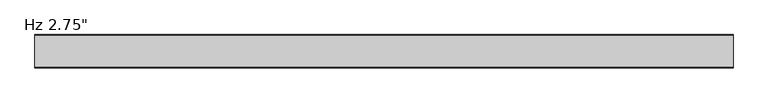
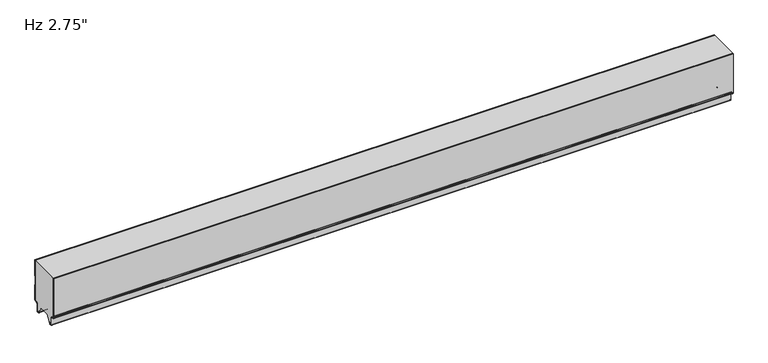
"""IFC4 building model written with IfcOpenShell, lengths in millimetres: plate geometry."""

import ifcopenshell
import ifcopenshell.guid

model = None  # the IFC model being written
_history = None  # IfcOwnerHistory: only IFC2X3 demands one
_inside = {}  # id of a spatial element -> (the spatial element, [elements in it])
_under = {}  # id of a project, library or spatial element -> (it, [spatial elements below it])
_declared = {}  # id of a project -> (the project, [libraries it declares])
_typed = {}  # id of a type object -> (the type object, [elements of that type])
_made_of = {}  # id of a material, layer set ... -> (it, [elements and type objects made of it])


def new_model(schema):
    """Start an empty IFC model of exactly this schema.

    Asked for "IFC4X3", IfcOpenShell would pick the latest addendum, in which some entities
    have other attributes; the version numbers below select the first issue.
    IFC2X3 requires an IfcOwnerHistory on every rooted entity: one is made here for all.
    """
    global model, _history
    if schema == "IFC4X3":
        model = ifcopenshell.file(schema_version=(4, 3, 0, 0))
    else:
        model = ifcopenshell.file(schema=schema)
    _inside.clear()
    _under.clear()
    _declared.clear()
    _typed.clear()
    _made_of.clear()
    _history = None
    if model.schema == "IFC2X3":
        org = make("IfcOrganization", Name="unknown")
        user = make(
            "IfcPersonAndOrganization",
            ThePerson=make("IfcPerson", FamilyName="unknown"),
            TheOrganization=org,
        )
        app = make(
            "IfcApplication",
            ApplicationDeveloper=org,
            Version="unknown",
            ApplicationFullName="unknown",
            ApplicationIdentifier="unknown",
        )
        _history = make(
            "IfcOwnerHistory",
            OwningUser=user,
            OwningApplication=app,
            ChangeAction="ADDED",
            CreationDate=0,
        )
    return model


def make(cls, **values):
    """One entity of the class cls with the attributes given. An attribute that is None is left unset."""
    return model.create_entity(
        cls, **{name: value for name, value in values.items() if value is not None}
    )


def rooted(cls, **values):
    """An entity with a GlobalId (a new one), such as an element, a storey or a relation."""
    return make(cls, GlobalId=ifcopenshell.guid.new(), OwnerHistory=_history, **values)


def si_unit(unit_type, name, prefix=None):
    """IfcSIUnit, for example si_unit("LENGTHUNIT", "METRE", prefix="MILLI")."""
    return make("IfcSIUnit", UnitType=unit_type, Prefix=prefix, Name=name)


def assignment(units):
    """IfcUnitAssignment: the units of a project."""
    return None if units is None else make("IfcUnitAssignment", Units=units)


def point(xyz):
    """IfcCartesianPoint."""
    return None if xyz is None else make("IfcCartesianPoint", Coordinates=xyz)


def direction(xyz):
    """IfcDirection."""
    return None if xyz is None else make("IfcDirection", DirectionRatios=xyz)


def frame(location, z_axis=None, x_axis=None):
    """IfcAxis2Placement3D, a coordinate frame: its origin and axes. An axis left out is left unset."""
    return make(
        "IfcAxis2Placement3D",
        Location=point(location),
        Axis=direction(z_axis),
        RefDirection=direction(x_axis),
    )


def origin():
    """The frame at (0, 0, 0) with its axes left unset."""
    return frame((0.0, 0.0, 0.0))


def place(relative_to, where):
    """IfcLocalPlacement: puts the frame where relative to a parent placement (None: the world)."""
    return make(
        "IfcLocalPlacement", PlacementRelTo=relative_to, RelativePlacement=where
    )


def context(
    kind, dimensions, precision=None, world=None, true_north=None, identifier=None
):
    """IfcGeometricRepresentationContext, for example the 3D "Model" context."""
    return make(
        "IfcGeometricRepresentationContext",
        ContextIdentifier=identifier,
        ContextType=kind,
        CoordinateSpaceDimension=dimensions,
        Precision=precision,
        WorldCoordinateSystem=world,
        TrueNorth=true_north,
    )


def project(units=None, contexts=None):
    """IfcProject with its units and contexts."""
    return rooted(
        "IfcProject",
        Name="project",
        RepresentationContexts=contexts,
        UnitsInContext=assignment(units),
    )


def spatial(cls, under=None, at=None, **own):
    """A site, building, storey or space (cls), placed at a placement, below another one or the project."""
    s = rooted(cls, ObjectPlacement=at, **own)
    if under is not None:
        _under.setdefault(under.id(), (under, []))[1].append(s)
    return s


def polyline(points):
    """IfcPolyline through the points."""
    return make("IfcPolyline", Points=[point(p) for p in points])


def circle_curve(where, radius):
    """IfcCircle in the frame where."""
    return make("IfcCircle", Position=where, Radius=radius)


def shape(context_of_items, identifier, shape_type, items):
    """IfcShapeRepresentation: the items that make up one representation, for example the "Body"."""
    return make(
        "IfcShapeRepresentation",
        ContextOfItems=context_of_items,
        RepresentationIdentifier=identifier,
        RepresentationType=shape_type,
        Items=items,
    )


def source(mapping_origin, context_of_items, identifier, shape_type, items):
    """IfcRepresentationMap: a shape defined once, which mapped items show again and again."""
    return make(
        "IfcRepresentationMap",
        MappingOrigin=mapping_origin,
        MappedRepresentation=shape(context_of_items, identifier, shape_type, items),
    )


def transform(
    local_origin,
    x_axis=None,
    y_axis=None,
    z_axis=None,
    scale=None,
    scale2=None,
    scale3=None,
    uniform=True,
):
    """IfcCartesianTransformationOperator3D, or its non-uniform kind. x_axis, y_axis, z_axis: its Axis1, 2, 3."""
    if uniform:
        return make(
            "IfcCartesianTransformationOperator3D",
            Axis1=direction(x_axis),
            Axis2=direction(y_axis),
            LocalOrigin=point(local_origin),
            Scale=scale,
            Axis3=direction(z_axis),
        )
    return make(
        "IfcCartesianTransformationOperator3DnonUniform",
        Axis1=direction(x_axis),
        Axis2=direction(y_axis),
        LocalOrigin=point(local_origin),
        Scale=scale,
        Axis3=direction(z_axis),
        Scale2=scale2,
        Scale3=scale3,
    )


def mapped(mapping_source, mapping_target):
    """IfcMappedItem: shows the shape of a source again, moved by a transform."""
    return make(
        "IfcMappedItem", MappingSource=mapping_source, MappingTarget=mapping_target
    )


def made_of(thing, what):
    """Note that an element or type object is made of a material, layer set ...; save() writes the relation."""
    if what is not None:
        _made_of.setdefault(what.id(), (what, []))[1].append(thing)
    return thing


def element(
    cls,
    number,
    at=None,
    inside=None,
    cuts=None,
    type_object=None,
    material=None,
    context=None,
    identifier="Body",
    shape_type=None,
    held_by="IfcProductDefinitionShape",
    body=None,
    shapes=None,
    **own,
):
    """One element of the class cls, such as IfcWall. Its Tag is "e" and its number.

    at: its placement. inside: the storey or other place that contains it. cuts: it is an
    opening in that element (IfcRelVoidsElement). A single representation is given by context,
    identifier, shape_type and body (its items); several are given by shapes. held_by: the class
    of the entity that holds the representations. save() writes the other relations.
    """
    e = rooted(cls, Tag="e%d" % number, ObjectPlacement=at, **own)
    if body is not None:
        shapes = [shape(context, identifier, shape_type, body)]
    if shapes is not None:
        e.Representation = make(held_by, Representations=shapes)
    if inside is not None:
        _inside.setdefault(inside.id(), (inside, []))[1].append(e)
    if cuts is not None:
        rooted(
            "IfcRelVoidsElement", RelatingBuildingElement=cuts, RelatedOpeningElement=e
        )
    if type_object is not None:
        _typed.setdefault(type_object.id(), (type_object, []))[1].append(e)
    return made_of(e, material)


def aggregate(whole, parts):
    """IfcRelAggregates: a whole, such as a stair, and the parts it consists of."""
    return rooted("IfcRelAggregates", RelatingObject=whole, RelatedObjects=parts)


def save(model, path):
    """Write the relations noted so far, then the file.

    IfcRelAggregates (storeys below a building ...), IfcRelContainedInSpatialStructure (elements
    in a storey), IfcRelDefinesByType, IfcRelAssociatesMaterial and IfcRelDeclares: one each for
    every whole, place, type object, material and project.
    """
    for whole, parts in _under.values():
        aggregate(whole, parts)
    for where, things in _inside.values():
        rooted(
            "IfcRelContainedInSpatialStructure",
            RelatedElements=things,
            RelatingStructure=where,
        )
    for kind, things in _typed.values():
        rooted("IfcRelDefinesByType", RelatedObjects=things, RelatingType=kind)
    for what, things in _made_of.values():
        rooted("IfcRelAssociatesMaterial", RelatedObjects=things, RelatingMaterial=what)
    for by, libraries in _declared.values():
        rooted("IfcRelDeclares", RelatingContext=by, RelatedDefinitions=libraries)
    model.write(path)


def plane_surface(at):
    """IfcPlane: the flat surface through the origin of the frame at, square to its z axis."""
    return make("IfcPlane", Position=at)


def cylinder_surface(at, radius):
    """IfcCylindricalSurface: all points at the distance radius from the z axis of the frame at."""
    return make("IfcCylindricalSurface", Position=at, Radius=radius)


def revolved_surface(curve, axis_point, axis_direction):
    """IfcSurfaceOfRevolution: the curve turned about the line through axis_point along axis_direction."""
    return make(
        "IfcSurfaceOfRevolution",
        SweptCurve=make("IfcArbitraryOpenProfileDef", ProfileType="CURVE", Curve=curve),
        AxisPosition=make("IfcAxis1Placement", Location=point(axis_point), Axis=direction(axis_direction)),
    )


def advanced_brep(points, edges, surfaces, faces):
    """IfcAdvancedBrep: a solid bounded by faces that lie on surfaces and meet in shared edges.

    An edge is (start, end): straight between two places in points (the first is 0);
    or (start, end, curve); or (start, end, curve, False) where it runs against its curve.
    A face is (place in surfaces, loops), or (place, loops, False) where it looks against
    its surface's normal. A loop lists edges by number (the first is 1), with a minus sign
    where the edge is run from its end to its start. The first loop is the outer one.
    """
    corners = [point(p) for p in points]
    vertices = [make("IfcVertexPoint", VertexGeometry=c) for c in corners]
    made = []
    for start, end, *more in edges:
        made.append(
            make(
                "IfcEdgeCurve",
                EdgeStart=vertices[start],
                EdgeEnd=vertices[end],
                EdgeGeometry=more[0] if more else make("IfcPolyline", Points=[corners[start], corners[end]]),
                SameSense=more[1] if len(more) > 1 else True,
            )
        )
    hull = []
    for where, loops, *sense in faces:
        bounds = []
        for j, loop in enumerate(loops):
            ring = [make("IfcOrientedEdge", EdgeElement=made[abs(k) - 1], Orientation=k > 0) for k in loop]
            bounds.append(
                make(
                    "IfcFaceOuterBound" if j == 0 else "IfcFaceBound",
                    Bound=make("IfcEdgeLoop", EdgeList=ring),
                    Orientation=True,
                )
            )
        hull.append(make("IfcAdvancedFace", Bounds=bounds, FaceSurface=surfaces[where], SameSense=sense[0] if sense else True))
    return make("IfcAdvancedBrep", Outer=make("IfcClosedShell", CfsFaces=hull))


def plate_8344565c(model_context):
    return source(origin(), model_context, "Body", "AdvancedBrep", [
        advanced_brep(
        [(-730.0, -1.0, 59.9218553), (-730.0, -1.0, 94.95), (-730.0, 0.0, 94.95), (-730.0, 0.0, 59.479416), (-730.0, -1.1911595, 58.4068912), (-730.0, -1.1911595, 39.5087751), (-730.0, 0.0, 38.4362503), (-730.0, 0.0, 5.8272193), (-730.0, -2.9772904, 2.8499526), (-730.0, -5.2691742, 2.8499526), (-730.0, -8.2464427, -0.1273159), (-730.0, -8.2464427, -15.7237419), (-730.0, -9.8343193, -17.3116185), (-730.0, -12.905868, -17.3116185), (-730.0, -14.4937445, -15.7237419), (-730.0, -14.4937445, -13.3687064), (-730.0, -13.4937445, -13.3687064), (-730.0, -13.4937445, -15.7237419), (-730.0, -12.905868, -16.3116185), (-730.0, -9.8343193, -16.3116185), (-730.0, -9.2464427, -15.7237419), (-730.0, -9.2464427, -0.1273159), (-730.0, -5.2691742, 3.8499526), (-730.0, -2.9772904, 3.8499526), (-730.0, -1.0000218, 5.82722), (-730.0, -1.0, 37.993811), (-730.0, -2.1911595, 39.0663358), (-730.0, -2.1911595, 58.8493305), (730.0, 0.0, 59.479416), (730.0, 0.0, 94.95), (730.0, -1.0, 94.95), (730.0, -1.0, 59.9218553), (730.0, -2.1911595, 58.8493305), (730.0, -2.1911595, 39.0663358), (730.0, -1.0, 37.993811), (730.0, -1.0, 5.82722), (730.0, -2.9772904, 3.8499526), (730.0, -5.2691742, 3.8499526), (730.0, -9.2464427, -0.1273159), (730.0, -9.2464427, -15.7237419), (730.0, -9.8343193, -16.3116185), (730.0, -12.905868, -16.3116185), (730.0, -13.4937445, -15.7237419), (730.0, -13.4937445, -13.3687064), (730.0, -14.4937445, -13.3687064), (730.0, -14.4937445, -15.7237419), (730.0, -12.905868, -17.3116185), (730.0, -9.8343193, -17.3116185), (730.0, -8.2464427, -15.7237419), (730.0, -8.2464427, -0.1273159), (730.0, -5.2691742, 2.8499526), (730.0, -2.9772904, 2.8499526), (730.0, -2.18e-05, 5.8272193), (730.0, 0.0, 38.4362503), (730.0, -1.1911595, 39.5087751), (730.0, -1.1911595, 58.4068912)],
        [
            (0, 1),
            (1, 2),
            (2, 3),
            (3, 4),
            (4, 5),
            (5, 6),
            (6, 7),
            (7, 8, circle_curve(frame((-730.0, -2.9772904, 5.8272211), z_axis=(-1.0, 0.0, 0.0), x_axis=(0.0, 1.0, 0.0)), 2.9772685)),
            (8, 9),
            (9, 10, circle_curve(frame((-730.0, -5.2691742, -0.1273159), z_axis=(1.0, 0.0, 0.0), x_axis=(0.0, 1.0, 0.0)), 2.9772685)),
            (10, 11),
            (11, 12, circle_curve(frame((-730.0, -9.8343193, -15.7237419), z_axis=(-1.0, 0.0, 0.0), x_axis=(0.0, 1.0, 0.0)), 1.5878765)),
            (12, 13),
            (13, 14, circle_curve(frame((-730.0, -12.905868, -15.7237419), z_axis=(-1.0, 0.0, 0.0), x_axis=(0.0, 1.0, 0.0)), 1.5878765)),
            (14, 15),
            (15, 16),
            (16, 17),
            (17, 18, circle_curve(frame((-730.0, -12.905868, -15.7237419), z_axis=(1.0, 0.0, 0.0), x_axis=(0.0, 1.0, 0.0)), 0.5878765)),
            (18, 19),
            (19, 20, circle_curve(frame((-730.0, -9.8343193, -15.7237419), z_axis=(1.0, 0.0, 0.0), x_axis=(0.0, 1.0, 0.0)), 0.5878765)),
            (20, 21),
            (21, 22, circle_curve(frame((-730.0, -5.2691742, -0.1273159), z_axis=(-1.0, 0.0, 0.0), x_axis=(0.0, 1.0, 0.0)), 3.9772685)),
            (22, 23),
            (23, 24, circle_curve(frame((-730.0, -2.9772904, 5.8272212), z_axis=(1.0, 0.0, 0.0), x_axis=(0.0, 1.0, 0.0)), 1.9772685)),
            (24, 25),
            (25, 26),
            (26, 27),
            (27, 0),
            (28, 29),
            (29, 30),
            (30, 31),
            (31, 32),
            (32, 33),
            (33, 34),
            (34, 35),
            (35, 36, circle_curve(frame((730.0, -2.9772904, 5.8272212), z_axis=(-1.0, 0.0, 0.0), x_axis=(0.0, 1.0, 0.0)), 1.9772685)),
            (36, 37),
            (37, 38, circle_curve(frame((730.0, -5.2691742, -0.1273159), z_axis=(1.0, 0.0, 0.0), x_axis=(0.0, 1.0, 0.0)), 3.9772685)),
            (38, 39),
            (39, 40, circle_curve(frame((730.0, -9.8343193, -15.7237419), z_axis=(-1.0, 0.0, 0.0), x_axis=(0.0, 1.0, 0.0)), 0.5878765)),
            (40, 41),
            (41, 42, circle_curve(frame((730.0, -12.905868, -15.7237419), z_axis=(-1.0, 0.0, 0.0), x_axis=(0.0, 1.0, 0.0)), 0.5878765)),
            (42, 43),
            (43, 44),
            (44, 45),
            (45, 46, circle_curve(frame((730.0, -12.905868, -15.7237419), z_axis=(1.0, 0.0, 0.0), x_axis=(0.0, 1.0, 0.0)), 1.5878765)),
            (46, 47),
            (47, 48, circle_curve(frame((730.0, -9.8343193, -15.7237419), z_axis=(1.0, 0.0, 0.0), x_axis=(0.0, 1.0, 0.0)), 1.5878765)),
            (48, 49),
            (49, 50, circle_curve(frame((730.0, -5.2691742, -0.1273159), z_axis=(-1.0, 0.0, 0.0), x_axis=(0.0, 1.0, 0.0)), 2.9772685)),
            (50, 51),
            (51, 52, circle_curve(frame((730.0, -2.9772904, 5.8272211), z_axis=(1.0, 0.0, 0.0), x_axis=(0.0, 1.0, 0.0)), 2.9772685)),
            (52, 53),
            (53, 54),
            (54, 55),
            (55, 28),
            (30, 1),
            (0, 31),
            (27, 32),
            (26, 33),
            (25, 34),
            (24, 35),
            (23, 36),
            (22, 37),
            (21, 38),
            (20, 39),
            (19, 40),
            (18, 41),
            (17, 42),
            (16, 43),
            (15, 44),
            (14, 45),
            (13, 46),
            (12, 47),
            (11, 48),
            (10, 49),
            (9, 50),
            (8, 51),
            (7, 52),
            (6, 53),
            (5, 54),
            (4, 55),
            (3, 28),
            (2, 29),
        ],
        [
            plane_surface(frame((-730.0, 0.0, 576.2625), z_axis=(-1.0, 0.0, 0.0), x_axis=(0.0, 1.0, 0.0))),
            plane_surface(frame((730.0, 0.0, 576.2625), z_axis=(1.0, 0.0, 0.0), x_axis=(0.0, 1.0, 0.0))),
            plane_surface(frame((-730.0, -1.0, 113.6164312), z_axis=(0.0, -1.0, 0.0), x_axis=(1.0, 0.0, 0.0))),
            plane_surface(frame((-730.0, -1.0, 59.9218553), z_axis=(0.0, -0.6691306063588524, 0.7431448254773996), x_axis=(1.0, 0.0, 0.0))),
            plane_surface(frame((-730.0, -2.1911595, 58.8493305), z_axis=(0.0, -1.0, 0.0), x_axis=(1.0, 0.0, 0.0))),
            plane_surface(frame((-730.0, -2.1911595, 39.0663358), z_axis=(0.0, -0.6691306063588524, -0.7431448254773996), x_axis=(1.0, 0.0, 0.0))),
            plane_surface(frame((-730.0, -1.0, 37.993811), z_axis=(0.0, -1.0, 0.0), x_axis=(1.0, 0.0, 0.0))),
            revolved_surface(polyline([(730.0, -1.0000218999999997, 5.8272212), (-730.0, -1.0000218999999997, 5.8272212)]), (-730.0, -2.9772904, 5.8272212), (1.0, 0.0, 0.0)),
            plane_surface(frame((-730.0, -2.9772904, 3.8499526), z_axis=(0.0, 0.0, 1.0), x_axis=(1.0, 0.0, 0.0))),
            cylinder_surface(frame((-730.0, -5.2691742, -0.1273159), z_axis=(-1.0, 0.0, 0.0), x_axis=(0.0, 1.0, 0.0)), 3.9772685),
            plane_surface(frame((-730.0, -9.2464427, -0.1273159), z_axis=(0.0, -1.0, 0.0), x_axis=(1.0, 0.0, 0.0))),
            revolved_surface(polyline([(730.0, -9.2464428, -15.7237419), (-730.0, -9.2464428, -15.7237419)]), (-730.0, -9.8343193, -15.7237419), (1.0, 0.0, 0.0)),
            plane_surface(frame((-730.0, -9.8343193, -16.3116185), z_axis=(0.0, 0.0, 1.0), x_axis=(1.0, 0.0, 0.0))),
            revolved_surface(polyline([(730.0, -12.3179915, -15.7237419), (-730.0, -12.3179915, -15.7237419)]), (-730.0, -12.905868, -15.7237419), (1.0, 0.0, 0.0)),
            plane_surface(frame((-730.0, -13.4937445, -15.7237419), z_axis=(0.0, 1.0, 0.0), x_axis=(1.0, 0.0, 0.0))),
            plane_surface(frame((-730.0, -13.4937445, -13.3687064), z_axis=(0.0, 0.0, 1.0), x_axis=(1.0, 0.0, 0.0))),
            plane_surface(frame((-730.0, -14.4937445, -13.3687064), z_axis=(0.0, -1.0, 0.0), x_axis=(1.0, 0.0, 0.0))),
            cylinder_surface(frame((-730.0, -12.905868, -15.7237419), z_axis=(-1.0, 0.0, 0.0), x_axis=(0.0, 1.0, 0.0)), 1.5878765),
            plane_surface(frame((-730.0, -12.905868, -17.3116185), z_axis=(0.0, 0.0, -1.0), x_axis=(1.0, 0.0, 0.0))),
            cylinder_surface(frame((-730.0, -9.8343193, -15.7237419), z_axis=(-1.0, 0.0, 0.0), x_axis=(0.0, 1.0, 0.0)), 1.5878765),
            plane_surface(frame((-730.0, -8.2464427, -15.7237419), z_axis=(0.0, 1.0, 0.0), x_axis=(1.0, 0.0, 0.0))),
            revolved_surface(polyline([(730.0, -2.2919057, -0.1273159), (-730.0, -2.2919057, -0.1273159)]), (-730.0, -5.2691742, -0.1273159), (1.0, 0.0, 0.0)),
            plane_surface(frame((-730.0, -5.2691742, 2.8499526), z_axis=(0.0, 0.0, -1.0), x_axis=(1.0, 0.0, 0.0))),
            cylinder_surface(frame((-730.0, -2.9772904, 5.8272211), z_axis=(-1.0, 0.0, 0.0), x_axis=(0.0, 1.0, 0.0)), 2.9772685),
            plane_surface(frame((-730.0, 0.0, 5.8272193), z_axis=(0.0, 1.0, 0.0), x_axis=(1.0, 0.0, 0.0))),
            plane_surface(frame((-730.0, 0.0, 38.4362503), z_axis=(0.0, 0.6691306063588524, 0.7431448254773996), x_axis=(1.0, 0.0, 0.0))),
            plane_surface(frame((-730.0, -1.1911595, 39.5087751), z_axis=(0.0, 1.0, 0.0), x_axis=(1.0, 0.0, 0.0))),
            plane_surface(frame((-730.0, -1.1911595, 58.4068912), z_axis=(0.0, 0.6691306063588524, -0.7431448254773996), x_axis=(1.0, 0.0, 0.0))),
            plane_surface(frame((-730.0, 0.0, 59.479416), z_axis=(0.0, 1.0, 0.0), x_axis=(1.0, 0.0, 0.0))),
            plane_surface(frame((730.0, 10.0, 94.95), z_axis=(0.0, 0.0, 1.0), x_axis=(-1.0, 0.0, 0.0))),
        ],
        [
            (0, [[1, 2, 3, 4, 5, 6, 7, 8, 9, 10, 11, 12, 13, 14, 15, 16, 17, 18, 19, 20, 21, 22, 23, 24, 25, 26, 27, 28]]),
            (1, [[29, 30, 31, 32, 33, 34, 35, 36, 37, 38, 39, 40, 41, 42, 43, 44, 45, 46, 47, 48, 49, 50, 51, 52, 53, 54, 55, 56]]),
            (2, [[-31, 57, -1, 58]]),
            (3, [[59, -32, -58, -28]]),
            (4, [[60, -33, -59, -27]]),
            (5, [[61, -34, -60, -26]]),
            (6, [[62, -35, -61, -25]]),
            (7, [[63, -36, -62, -24]]),
            (8, [[64, -37, -63, -23]]),
            (9, [[65, -38, -64, -22]]),
            (10, [[66, -39, -65, -21]]),
            (11, [[67, -40, -66, -20]]),
            (12, [[68, -41, -67, -19]]),
            (13, [[69, -42, -68, -18]]),
            (14, [[70, -43, -69, -17]]),
            (15, [[71, -44, -70, -16]]),
            (16, [[72, -45, -71, -15]]),
            (17, [[73, -46, -72, -14]]),
            (18, [[74, -47, -73, -13]]),
            (19, [[75, -48, -74, -12]]),
            (20, [[76, -49, -75, -11]]),
            (21, [[77, -50, -76, -10]]),
            (22, [[78, -51, -77, -9]]),
            (23, [[79, -52, -78, -8]]),
            (24, [[80, -53, -79, -7]]),
            (25, [[81, -54, -80, -6]]),
            (26, [[82, -55, -81, -5]]),
            (27, [[83, -56, -82, -4]]),
            (28, [[-3, 84, -29, -83]]),
            (29, [[-57, -30, -84, -2]]),
        ],
    ),
        advanced_brep(
        [(-730.0, -66.9223811, 3.8501063), (-730.0, -64.6308685, 3.8501063), (-730.0, -60.6535232, -0.1272391), (-730.0, -60.6535232, -15.7237514), (-730.0, -60.065666, -16.3116086), (-730.0, -56.9941346, -16.3116086), (-730.0, -56.4062635, -15.7237374), (-730.0, -56.4062635, -13.3687064), (-730.0, -55.4062599, -13.3687064), (-730.0, -55.4062599, -15.7237419), (-730.0, -56.9941364, -17.3116185), (-730.0, -60.0656851, -17.3116185), (-730.0, -61.6535616, -15.7237419), (-730.0, -61.6535616, -0.1273159), (-730.0, -64.6308302, 2.8499526), (-730.0, -66.922714, 2.8499526), (-730.0, -69.8999825, 5.8272211), (-730.0, -69.9, 94.95), (-730.0, -68.8992912, 94.95), (-730.0, -68.8992912, 5.8270163), (730.0, -66.9223811, 3.8501063), (730.0, -68.8992912, 5.8270163), (730.0, -68.8992912, 94.95), (730.0, -69.9, 94.95), (730.0, -69.9, 5.8272211), (730.0, -66.922714, 2.8499526), (730.0, -64.6308302, 2.8499526), (730.0, -61.6535616, -0.1273159), (730.0, -61.6535616, -15.7237419), (730.0, -60.0656851, -17.3116185), (730.0, -56.9941364, -17.3116185), (730.0, -55.4062599, -15.7237419), (730.0, -55.4062599, -13.3687064), (730.0, -56.4062635, -13.3687064), (730.0, -56.4062635, -15.7237374), (730.0, -56.9941346, -16.3116086), (730.0, -60.065666, -16.3116086), (730.0, -60.6535232, -15.7237514), (730.0, -60.6535232, -0.1272391), (730.0, -64.6308685, 3.8501063)],
        [
            (0, 1),
            (1, 2, circle_curve(frame((-730.0, -64.6308685, -0.1272391), z_axis=(-1.0, 0.0, 0.0), x_axis=(0.0, 0.0, -1.0)), 3.9773454)),
            (2, 3),
            (3, 4, circle_curve(frame((-730.0, -60.065666, -15.7237514), z_axis=(1.0, 0.0, 0.0), x_axis=(0.0, 0.0, -1.0)), 0.5878572)),
            (4, 5),
            (5, 6, circle_curve(frame((-730.0, -56.9941346, -15.7237374), z_axis=(1.0, 0.0, 0.0), x_axis=(0.0, 0.0, -1.0)), 0.5878711)),
            (6, 7),
            (7, 8),
            (8, 9),
            (9, 10, circle_curve(frame((-730.0, -56.9941364, -15.7237419), z_axis=(-1.0, 0.0, 0.0), x_axis=(0.0, 0.0, -1.0)), 1.5878765)),
            (10, 11),
            (11, 12, circle_curve(frame((-730.0, -60.0656851, -15.7237419), z_axis=(-1.0, 0.0, 0.0), x_axis=(0.0, 0.0, -1.0)), 1.5878765)),
            (12, 13),
            (13, 14, circle_curve(frame((-730.0, -64.6308302, -0.1273159), z_axis=(1.0, 0.0, 0.0), x_axis=(0.0, 0.0, -1.0)), 2.9772685)),
            (14, 15),
            (15, 16, circle_curve(frame((-730.0, -66.922714, 5.8272211), z_axis=(-1.0, 0.0, 0.0), x_axis=(0.0, 0.0, -1.0)), 2.9772685)),
            (16, 17),
            (17, 18),
            (18, 19),
            (19, 0, circle_curve(frame((-730.0, -66.9223811, 5.8270163), z_axis=(1.0, 0.0, 0.0), x_axis=(0.0, 0.0, -1.0)), 1.9769101)),
            (20, 21, circle_curve(frame((730.0, -66.9223811, 5.8270163), z_axis=(-1.0, 0.0, 0.0), x_axis=(0.0, 0.0, -1.0)), 1.9769101)),
            (21, 22),
            (22, 23),
            (23, 24),
            (24, 25, circle_curve(frame((730.0, -66.922714, 5.8272211), z_axis=(1.0, 0.0, 0.0), x_axis=(0.0, 0.0, -1.0)), 2.9772685)),
            (25, 26),
            (26, 27, circle_curve(frame((730.0, -64.6308302, -0.1273159), z_axis=(-1.0, 0.0, 0.0), x_axis=(0.0, 0.0, -1.0)), 2.9772685)),
            (27, 28),
            (28, 29, circle_curve(frame((730.0, -60.0656851, -15.7237419), z_axis=(1.0, 0.0, 0.0), x_axis=(0.0, 0.0, -1.0)), 1.5878765)),
            (29, 30),
            (30, 31, circle_curve(frame((730.0, -56.9941364, -15.7237419), z_axis=(1.0, 0.0, 0.0), x_axis=(0.0, 0.0, -1.0)), 1.5878765)),
            (31, 32),
            (32, 33),
            (33, 34),
            (34, 35, circle_curve(frame((730.0, -56.9941346, -15.7237374), z_axis=(-1.0, 0.0, 0.0), x_axis=(0.0, 0.0, -1.0)), 0.5878711)),
            (35, 36),
            (36, 37, circle_curve(frame((730.0, -60.065666, -15.7237514), z_axis=(-1.0, 0.0, 0.0), x_axis=(0.0, 0.0, -1.0)), 0.5878572)),
            (37, 38),
            (38, 39, circle_curve(frame((730.0, -64.6308685, -0.1272391), z_axis=(1.0, 0.0, 0.0), x_axis=(0.0, 0.0, -1.0)), 3.9773454)),
            (39, 20),
            (17, 23),
            (22, 18),
            (19, 21),
            (20, 0),
            (16, 24),
            (15, 25),
            (14, 26),
            (13, 27),
            (12, 28),
            (11, 29),
            (10, 30),
            (9, 31),
            (8, 32),
            (7, 33),
            (6, 34),
            (5, 35),
            (4, 36),
            (3, 37),
            (2, 38),
            (1, 39),
        ],
        [
            plane_surface(frame((-730.0, -69.9, 576.2625), z_axis=(-1.0, 0.0, 0.0), x_axis=(0.0, -1.0, 0.0))),
            plane_surface(frame((730.0, -69.9, 576.2625), z_axis=(1.0, 0.0, 0.0), x_axis=(0.0, -1.0, 0.0))),
            plane_surface(frame((730.0, 10.0, 94.95), z_axis=(0.0, 0.0, 1.0), x_axis=(-1.0, 0.0, 0.0))),
            revolved_surface(polyline([(730.0, -66.9223811, 3.8501062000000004), (-730.0, -66.9223811, 3.8501062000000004)]), (-730.0, -66.9223811, 5.8270163), (1.0, 0.0, 0.0)),
            plane_surface(frame((-730.0, -68.8992912, 5.8270163), z_axis=(0.0, 1.0, 0.0), x_axis=(1.0, 0.0, 0.0))),
            plane_surface(frame((-730.0, -69.9, 1150.8100652), z_axis=(0.0, -1.0, 0.0), x_axis=(1.0, 0.0, 0.0))),
            cylinder_surface(frame((-730.0, -66.922714, 5.8272211), z_axis=(-1.0, 0.0, 0.0), x_axis=(0.0, 0.0, -1.0)), 2.9772685),
            plane_surface(frame((-730.0, -66.922714, 2.8499526), z_axis=(0.0, 0.0, -1.0), x_axis=(1.0, 0.0, 0.0))),
            revolved_surface(polyline([(730.0, -64.6308302, -3.1045844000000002), (-730.0, -64.6308302, -3.1045844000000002)]), (-730.0, -64.6308302, -0.1273159), (1.0, 0.0, 0.0)),
            plane_surface(frame((-730.0, -61.6535616, -0.1273159), z_axis=(0.0, -1.0, 0.0), x_axis=(1.0, 0.0, 0.0))),
            cylinder_surface(frame((-730.0, -60.0656851, -15.7237419), z_axis=(-1.0, 0.0, 0.0), x_axis=(0.0, 0.0, -1.0)), 1.5878765),
            plane_surface(frame((-730.0, -60.0656851, -17.3116185), z_axis=(0.0, 0.0, -1.0), x_axis=(1.0, 0.0, 0.0))),
            cylinder_surface(frame((-730.0, -56.9941364, -15.7237419), z_axis=(-1.0, 0.0, 0.0), x_axis=(0.0, 0.0, -1.0)), 1.5878765),
            plane_surface(frame((-730.0, -55.4062599, -15.7237419), z_axis=(0.0, 1.0, 0.0), x_axis=(1.0, 0.0, 0.0))),
            plane_surface(frame((-730.0, -55.4062599, -13.3687064), z_axis=(0.0, 0.0, 1.0), x_axis=(1.0, 0.0, 0.0))),
            plane_surface(frame((-730.0, -56.4062635, -13.3687064), z_axis=(0.0, -1.0, 0.0), x_axis=(1.0, 0.0, 0.0))),
            revolved_surface(polyline([(730.0, -56.9941346, -16.3116085), (-730.0, -56.9941346, -16.3116085)]), (-730.0, -56.9941346, -15.7237374), (1.0, 0.0, 0.0)),
            plane_surface(frame((-730.0, -56.9941346, -16.3116086), z_axis=(0.0, 0.0, 1.0), x_axis=(1.0, 0.0, 0.0))),
            revolved_surface(polyline([(730.0, -60.065666, -16.3116086), (-730.0, -60.065666, -16.3116086)]), (-730.0, -60.065666, -15.7237514), (1.0, 0.0, 0.0)),
            plane_surface(frame((-730.0, -60.6535232, -15.7237514), z_axis=(0.0, 1.0, 0.0), x_axis=(1.0, 0.0, 0.0))),
            cylinder_surface(frame((-730.0, -64.6308685, -0.1272391), z_axis=(-1.0, 0.0, 0.0), x_axis=(0.0, 0.0, -1.0)), 3.9773454),
            plane_surface(frame((-730.0, -64.6308685, 3.8501063), z_axis=(0.0, 0.0, 1.0), x_axis=(1.0, 0.0, 0.0))),
        ],
        [
            (0, [[1, 2, 3, 4, 5, 6, 7, 8, 9, 10, 11, 12, 13, 14, 15, 16, 17, 18, 19, 20]]),
            (1, [[21, 22, 23, 24, 25, 26, 27, 28, 29, 30, 31, 32, 33, 34, 35, 36, 37, 38, 39, 40]]),
            (2, [[41, -23, 42, -18]]),
            (3, [[43, -21, 44, -20]]),
            (4, [[-19, -42, -22, -43]]),
            (5, [[-24, -41, -17, 45]]),
            (6, [[46, -25, -45, -16]]),
            (7, [[47, -26, -46, -15]]),
            (8, [[48, -27, -47, -14]]),
            (9, [[49, -28, -48, -13]]),
            (10, [[50, -29, -49, -12]]),
            (11, [[51, -30, -50, -11]]),
            (12, [[52, -31, -51, -10]]),
            (13, [[53, -32, -52, -9]]),
            (14, [[54, -33, -53, -8]]),
            (15, [[55, -34, -54, -7]]),
            (16, [[56, -35, -55, -6]]),
            (17, [[57, -36, -56, -5]]),
            (18, [[58, -37, -57, -4]]),
            (19, [[59, -38, -58, -3]]),
            (20, [[60, -39, -59, -2]]),
            (21, [[-44, -40, -60, -1]]),
        ],
    ),
        advanced_brep(
        [(-730.0, -66.9227194, 3.8499499), (-730.0, -68.8999935, 5.8272239), (-730.0, -68.9, 94.95), (-730.0, -1.0, 94.95), (-730.0, -1.0, 59.9218553), (-730.0, -2.1911595, 58.8493305), (-730.0, -2.1911595, 39.0663358), (-730.0, -1.0000109, 37.993811), (-730.0, -1.0000109, 5.8272239), (-730.0, -2.9772849, 3.8499499), (-730.0, -5.2691749, 3.8499499), (-730.0, -9.246442, -0.1273173), (-730.0, -9.246442, -15.7237417), (-730.0, -9.8343189, -16.3116186), (-730.0, -12.9058679, -16.3116186), (-730.0, -13.4937446, -15.723742), (-730.0, -13.4937446, -13.3687064), (-730.0, -14.4937446, -13.3687064), (-730.0, -14.4937446, -15.6582851), (-730.0, -23.7509179, 0.0), (-730.0, -46.1490865, 0.0), (-730.0, -55.4062598, -15.6582851), (-730.0, -55.4062598, -13.3687064), (-730.0, -56.4062598, -13.3687064), (-730.0, -56.4062598, -15.723742), (-730.0, -56.9941365, -16.3116186), (-730.0, -60.0656854, -16.3116186), (-730.0, -60.6535623, -15.7237417), (-730.0, -60.6535623, -0.1273173), (-730.0, -64.6308295, 3.8499499), (730.0, -66.9227194, 3.8499499), (730.0, -64.6308295, 3.8499499), (730.0, -60.6535623, -0.1273173), (730.0, -60.6535623, -15.7237417), (730.0, -60.0656854, -16.3116186), (730.0, -56.9941365, -16.3116186), (730.0, -56.4062598, -15.723742), (730.0, -56.4062598, -13.3687064), (730.0, -55.4062598, -13.3687064), (730.0, -55.4062598, -15.6582851), (730.0, -46.1490865, 0.0), (730.0, -23.7509179, 0.0), (730.0, -14.4937446, -15.6582851), (730.0, -14.4937446, -13.3687064), (730.0, -13.4937446, -13.3687064), (730.0, -13.4937446, -15.723742), (730.0, -12.9058679, -16.3116186), (730.0, -9.8343189, -16.3116186), (730.0, -9.246442, -15.7237417), (730.0, -9.246442, -0.1273173), (730.0, -5.2691749, 3.8499499), (730.0, -2.9772849, 3.8499499), (730.0, -1.0000109, 5.8272239), (730.0, -1.0000109, 37.993811), (730.0, -2.1911595, 39.0663358), (730.0, -2.1911595, 58.8493305), (730.0, -1.0, 59.9218553), (730.0, -1.0, 94.95), (730.0, -68.9, 94.95), (730.0, -68.9, 5.8272239)],
        [
            (0, 1, circle_curve(frame((-730.0, -66.9227194, 5.8272239), z_axis=(-1.0, 0.0, 0.0), x_axis=(0.0, 0.0, -1.0)), 1.977274)),
            (1, 2),
            (2, 3),
            (3, 4),
            (4, 5),
            (5, 6),
            (6, 7),
            (7, 8),
            (8, 9, circle_curve(frame((-730.0, -2.9772849, 5.8272239), z_axis=(-1.0, 0.0, 0.0), x_axis=(0.0, 1.0, 0.0)), 1.977274)),
            (9, 10),
            (10, 11, circle_curve(frame((-730.0, -5.2691749, -0.1273173), z_axis=(1.0, 0.0, 0.0), x_axis=(0.0, 1.0, 0.0)), 3.9772671)),
            (11, 12),
            (12, 13, circle_curve(frame((-730.0, -9.8343189, -15.7237417), z_axis=(-1.0, 0.0, 0.0), x_axis=(0.0, 1.0, 0.0)), 0.5878769)),
            (13, 14),
            (14, 15, circle_curve(frame((-730.0, -12.9058679, -15.723742), z_axis=(-1.0, 0.0, 0.0), x_axis=(0.0, 1.0, 0.0)), 0.5878766)),
            (15, 16),
            (16, 17),
            (17, 18),
            (18, 19),
            (19, 20),
            (20, 21),
            (21, 22),
            (22, 23),
            (23, 24),
            (24, 25, circle_curve(frame((-730.0, -56.9941365, -15.723742), z_axis=(-1.0, 0.0, 0.0), x_axis=(0.0, 0.0, -1.0)), 0.5878766)),
            (25, 26),
            (26, 27, circle_curve(frame((-730.0, -60.0656854, -15.7237417), z_axis=(-1.0, 0.0, 0.0), x_axis=(0.0, 0.0, -1.0)), 0.5878769)),
            (27, 28),
            (28, 29, circle_curve(frame((-730.0, -64.6308295, -0.1273173), z_axis=(1.0, 0.0, 0.0), x_axis=(0.0, 0.0, -1.0)), 3.9772671)),
            (29, 0),
            (30, 31),
            (31, 32, circle_curve(frame((730.0, -64.6308295, -0.1273173), z_axis=(-1.0, 0.0, 0.0), x_axis=(0.0, 0.0, -1.0)), 3.9772671)),
            (32, 33),
            (33, 34, circle_curve(frame((730.0, -60.0656854, -15.7237417), z_axis=(1.0, 0.0, 0.0), x_axis=(0.0, 0.0, -1.0)), 0.5878769)),
            (34, 35),
            (35, 36, circle_curve(frame((730.0, -56.9941365, -15.723742), z_axis=(1.0, 0.0, 0.0), x_axis=(0.0, 0.0, -1.0)), 0.5878766)),
            (36, 37),
            (37, 38),
            (38, 39),
            (39, 40),
            (40, 41),
            (41, 42),
            (42, 43),
            (43, 44),
            (44, 45),
            (45, 46, circle_curve(frame((730.0, -12.9058679, -15.723742), z_axis=(1.0, 0.0, 0.0), x_axis=(0.0, 1.0, 0.0)), 0.5878766)),
            (46, 47),
            (47, 48, circle_curve(frame((730.0, -9.8343189, -15.7237417), z_axis=(1.0, 0.0, 0.0), x_axis=(0.0, 1.0, 0.0)), 0.5878769)),
            (48, 49),
            (49, 50, circle_curve(frame((730.0, -5.2691749, -0.1273173), z_axis=(-1.0, 0.0, 0.0), x_axis=(0.0, 1.0, 0.0)), 3.9772671)),
            (50, 51),
            (51, 52, circle_curve(frame((730.0, -2.9772849, 5.8272239), z_axis=(1.0, 0.0, 0.0), x_axis=(0.0, 1.0, 0.0)), 1.977274)),
            (52, 53),
            (53, 54),
            (54, 55),
            (55, 56),
            (56, 57),
            (57, 58),
            (58, 59),
            (59, 30, circle_curve(frame((730.0, -66.9227194, 5.8272239), z_axis=(1.0, 0.0, 0.0), x_axis=(0.0, 0.0, -1.0)), 1.977274)),
            (18, 42),
            (41, 19),
            (17, 43),
            (16, 44),
            (15, 45),
            (14, 46),
            (13, 47),
            (12, 48),
            (11, 49),
            (10, 50),
            (9, 51),
            (8, 52),
            (7, 53),
            (6, 54),
            (5, 55),
            (4, 56),
            (3, 57),
            (40, 20),
            (2, 58),
            (29, 31),
            (30, 0),
            (28, 32),
            (27, 33),
            (26, 34),
            (25, 35),
            (24, 36),
            (23, 37),
            (22, 38),
            (21, 39),
            (1, 59),
        ],
        [
            plane_surface(frame((-730.0, -68.9, 576.2625), z_axis=(-1.0, 0.0, 0.0), x_axis=(0.0, -1.0, 0.0))),
            plane_surface(frame((730.0, -68.9, 576.2625), z_axis=(1.0, 0.0, 0.0), x_axis=(0.0, -1.0, 0.0))),
            plane_surface(frame((-730.0, -23.7509179, 0.0), z_axis=(0.0, -0.8608169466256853, -0.5089147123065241), x_axis=(1.0, 0.0, 0.0))),
            plane_surface(frame((-730.0, -14.4937446, -15.6582851), z_axis=(0.0, 1.0, 0.0), x_axis=(1.0, 0.0, 0.0))),
            plane_surface(frame((-730.0, -14.4937446, -13.3687064), z_axis=(0.0, 0.0, -1.0), x_axis=(1.0, 0.0, 0.0))),
            plane_surface(frame((-730.0, -13.4937446, -13.3687064), z_axis=(0.0, -1.0, 0.0), x_axis=(1.0, 0.0, 0.0))),
            cylinder_surface(frame((-730.0, -12.9058679, -15.723742), z_axis=(-1.0, 0.0, 0.0), x_axis=(0.0, 1.0, 0.0)), 0.5878766),
            plane_surface(frame((-730.0, -12.9058679, -16.3116186), z_axis=(0.0, 0.0, -1.0), x_axis=(1.0, 0.0, 0.0))),
            cylinder_surface(frame((-730.0, -9.8343189, -15.7237417), z_axis=(-1.0, 0.0, 0.0), x_axis=(0.0, 1.0, 0.0)), 0.5878769),
            plane_surface(frame((-730.0, -9.246442, -15.7237417), z_axis=(0.0, 1.0, 0.0), x_axis=(1.0, 0.0, 0.0))),
            revolved_surface(polyline([(730.0, -1.2919078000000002, -0.1273173), (-730.0, -1.2919078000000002, -0.1273173)]), (-730.0, -5.2691749, -0.1273173), (1.0, 0.0, 0.0)),
            plane_surface(frame((-730.0, -5.2691749, 3.8499499), z_axis=(0.0, 0.0, -1.0), x_axis=(1.0, 0.0, 0.0))),
            cylinder_surface(frame((-730.0, -2.9772849, 5.8272239), z_axis=(-1.0, 0.0, 0.0), x_axis=(0.0, 1.0, 0.0)), 1.977274),
            plane_surface(frame((-730.0, -1.0000109, 5.8272239), z_axis=(0.0, 1.0, 0.0), x_axis=(1.0, 0.0, 0.0))),
            plane_surface(frame((-730.0, -1.0000109, 37.993811), z_axis=(0.0, 0.6691339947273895, 0.7431417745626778), x_axis=(1.0, 0.0, 0.0))),
            plane_surface(frame((-730.0, -2.1911595, 39.0663358), z_axis=(0.0, 1.0, 0.0), x_axis=(1.0, 0.0, 0.0))),
            plane_surface(frame((-730.0, -2.1911595, 58.8493305), z_axis=(0.0, 0.6691306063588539, -0.7431448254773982), x_axis=(1.0, 0.0, 0.0))),
            plane_surface(frame((-730.0, -1.0, 59.9218553), z_axis=(0.0, 1.0, 0.0), x_axis=(1.0, 0.0, 0.0))),
            plane_surface(frame((-730.0, -46.1490865, 0.0), z_axis=(0.0, 0.0, -1.0), x_axis=(1.0, 0.0, 0.0))),
            plane_surface(frame((730.0, 10.0, 94.95), z_axis=(0.0, 0.0, 1.0), x_axis=(-1.0, 0.0, 0.0))),
            plane_surface(frame((-730.0, -66.9227194, 3.8499499), z_axis=(0.0, 0.0, -1.0), x_axis=(1.0, 0.0, 0.0))),
            revolved_surface(polyline([(730.0, -64.6308295, -4.1045844), (-730.0, -64.6308295, -4.1045844)]), (-730.0, -64.6308295, -0.1273173), (1.0, 0.0, 0.0)),
            plane_surface(frame((-730.0, -60.6535623, -0.1273173), z_axis=(0.0, -1.0, 0.0), x_axis=(1.0, 0.0, 0.0))),
            cylinder_surface(frame((-730.0, -60.0656854, -15.7237417), z_axis=(-1.0, 0.0, 0.0), x_axis=(0.0, 0.0, -1.0)), 0.5878769),
            plane_surface(frame((-730.0, -60.0656854, -16.3116186), z_axis=(0.0, 0.0, -1.0), x_axis=(1.0, 0.0, 0.0))),
            cylinder_surface(frame((-730.0, -56.9941365, -15.723742), z_axis=(-1.0, 0.0, 0.0), x_axis=(0.0, 0.0, -1.0)), 0.5878766),
            plane_surface(frame((-730.0, -56.4062598, -15.723742), z_axis=(0.0, 1.0, 0.0), x_axis=(1.0, 0.0, 0.0))),
            plane_surface(frame((-730.0, -56.4062598, -13.3687064), z_axis=(0.0, 0.0, -1.0), x_axis=(1.0, 0.0, 0.0))),
            plane_surface(frame((-730.0, -55.4062598, -13.3687064), z_axis=(0.0, -1.0, 0.0), x_axis=(1.0, 0.0, 0.0))),
            plane_surface(frame((-730.0, -55.4062598, -15.6582851), z_axis=(0.0, 0.8608169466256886, -0.5089147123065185), x_axis=(1.0, 0.0, 0.0))),
            plane_surface(frame((-730.0, -68.9, 1150.8100652), z_axis=(0.0, -1.0, 0.0), x_axis=(1.0, 0.0, 0.0))),
            cylinder_surface(frame((-730.0, -66.9227194, 5.8272239), z_axis=(-1.0, 0.0, 0.0), x_axis=(0.0, 0.0, -1.0)), 1.977274),
        ],
        [
            (0, [[1, 2, 3, 4, 5, 6, 7, 8, 9, 10, 11, 12, 13, 14, 15, 16, 17, 18, 19, 20, 21, 22, 23, 24, 25, 26, 27, 28, 29, 30]]),
            (1, [[31, 32, 33, 34, 35, 36, 37, 38, 39, 40, 41, 42, 43, 44, 45, 46, 47, 48, 49, 50, 51, 52, 53, 54, 55, 56, 57, 58, 59, 60]]),
            (2, [[61, -42, 62, -19]]),
            (3, [[63, -43, -61, -18]]),
            (4, [[64, -44, -63, -17]]),
            (5, [[65, -45, -64, -16]]),
            (6, [[66, -46, -65, -15]]),
            (7, [[67, -47, -66, -14]]),
            (8, [[68, -48, -67, -13]]),
            (9, [[69, -49, -68, -12]]),
            (10, [[70, -50, -69, -11]]),
            (11, [[71, -51, -70, -10]]),
            (12, [[72, -52, -71, -9]]),
            (13, [[73, -53, -72, -8]]),
            (14, [[74, -54, -73, -7]]),
            (15, [[75, -55, -74, -6]]),
            (16, [[76, -56, -75, -5]]),
            (17, [[-4, 77, -57, -76]]),
            (18, [[78, -20, -62, -41]]),
            (19, [[79, -58, -77, -3]]),
            (20, [[80, -31, 81, -30]]),
            (21, [[82, -32, -80, -29]]),
            (22, [[83, -33, -82, -28]]),
            (23, [[84, -34, -83, -27]]),
            (24, [[85, -35, -84, -26]]),
            (25, [[86, -36, -85, -25]]),
            (26, [[87, -37, -86, -24]]),
            (27, [[88, -38, -87, -23]]),
            (28, [[89, -39, -88, -22]]),
            (29, [[-78, -40, -89, -21]]),
            (30, [[-59, -79, -2, 90]]),
            (31, [[-81, -60, -90, -1]]),
        ],
    ),
    ])


if __name__ == "__main__":
    model = new_model("IFC4")
    model_context = context("Model", 3, world=origin())
    ifc_project = project(units=[si_unit("LENGTHUNIT", "METRE", prefix="MILLI")], contexts=[model_context])
    site = spatial("IfcSite", under=ifc_project)
    building = spatial("IfcBuilding", under=site)
    placement = place(None, origin())
    plate_shape = plate_8344565c(model_context)
    element("IfcPlate", 1, ObjectType="KIP-SLI-FLI-R19-CP-Hz-FL_SL : Hz 2.75\"", at=placement, inside=building, context=model_context, shape_type="MappedRepresentation", body=[
        mapped(plate_shape, transform((0.0, 0.0, 0.0), x_axis=(1.0, 0.0, 0.0), y_axis=(0.0, 1.0, 0.0), z_axis=(0.0, 0.0, 1.0))),
    ])
    save(model, "model.ifc")
